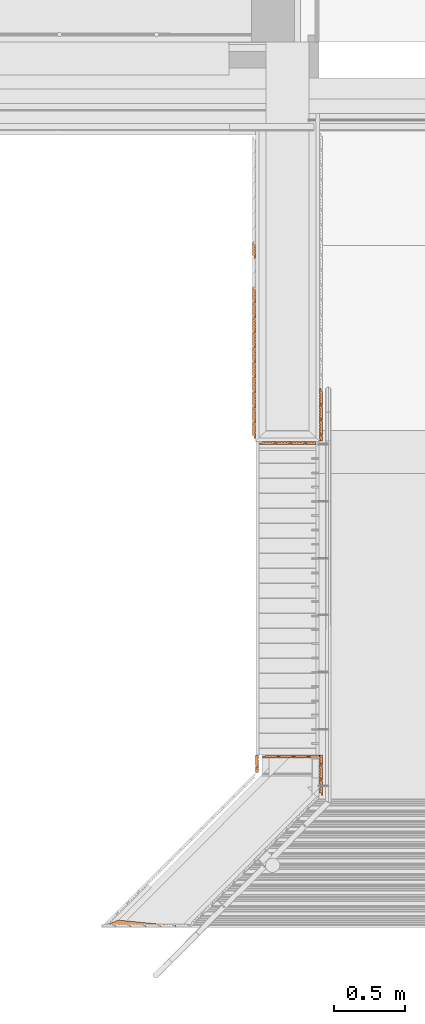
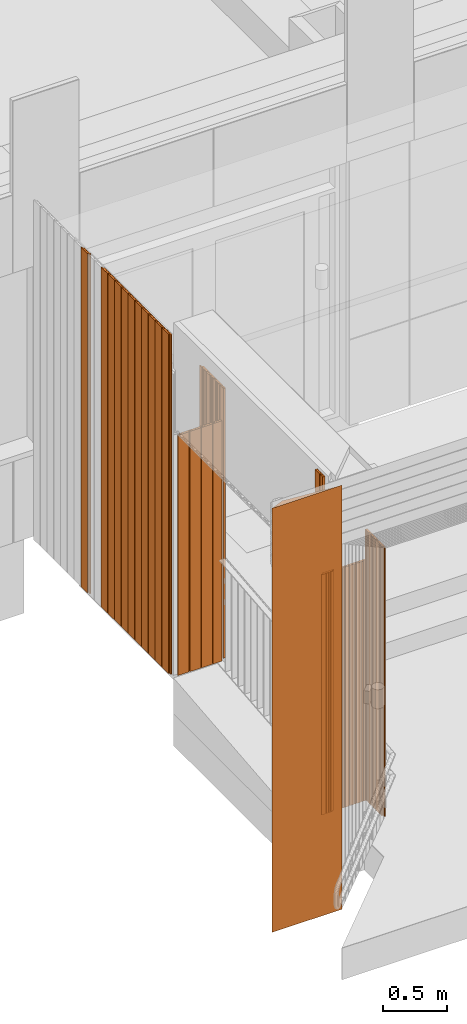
# One storey, part 345 of 418: 29 proxies.
"""IFC2X3 building model written with IfcOpenShell, lengths in millimetres."""

from ifc_helpers import new_model, entity, si_unit, converted_unit, derived_unit, money_unit, direction, frame, origin_with_axes, place, context, subcontext, project, spatial, polyline, outline, extrude, material, type_object, element, save


model = new_model("IFC2X3")

# Units and contexts
model_context = context("Model", 3, precision=0.01, world=origin_with_axes(), true_north=direction((0.0, 1.0)))
body_context = subcontext(model_context, "Body", "Model", "MODEL_VIEW")
ifc_project = project(units=[si_unit("LENGTHUNIT", "METRE", prefix="MILLI"), si_unit("AREAUNIT", "SQUARE_METRE"), si_unit("VOLUMEUNIT", "CUBIC_METRE"), converted_unit("PLANEANGLEUNIT", "DEGREE", entity("IfcPlaneAngleMeasure", 0.0174532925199), si_unit("PLANEANGLEUNIT", "RADIAN"), dimensions=[0, 0, 0, 0, 0, 0, 0]), si_unit("SOLIDANGLEUNIT", "STERADIAN"), money_unit("EUR"), converted_unit("TIMEUNIT", "Year", entity("IfcTimeMeasure", 31556926.0), si_unit("TIMEUNIT", "SECOND"), dimensions=[0, 0, 1, 0, 0, 0, 0]), si_unit("MASSUNIT", "GRAM", prefix="KILO"), si_unit("THERMODYNAMICTEMPERATUREUNIT", "DEGREE_CELSIUS"), si_unit("LUMINOUSINTENSITYUNIT", "LUMEN"), si_unit("ENERGYUNIT", "JOULE", prefix="MEGA"), derived_unit("THERMALCONDUCTANCEUNIT", [(si_unit("POWERUNIT", "WATT"), 1), (si_unit("LENGTHUNIT", "METRE"), -1), (si_unit("THERMODYNAMICTEMPERATUREUNIT", "KELVIN"), -1)]), derived_unit("SPECIFICHEATCAPACITYUNIT", [(si_unit("ENERGYUNIT", "JOULE"), 1), (si_unit("MASSUNIT", "GRAM", prefix="KILO"), -1), (si_unit("THERMODYNAMICTEMPERATUREUNIT", "KELVIN"), -1)]), derived_unit("MASSDENSITYUNIT", [(si_unit("MASSUNIT", "GRAM", prefix="KILO"), 1), (si_unit("VOLUMEUNIT", "CUBIC_METRE"), -1)])], contexts=[model_context])

# Site, building, storey
site_placement = place(None, origin_with_axes())
site = spatial("IfcSite", under=ifc_project, at=site_placement, Name="Paldiski mnt 245/1, Tallinn, Harjumaa", CompositionType="COMPLEX")
building_placement = place(site_placement, origin_with_axes())
building = spatial("IfcBuilding", under=site, at=building_placement, Name="RKAS Hoone üldnimetus (kasutust iseloomustav) -> IFC Project Manager -> SOLIBRI", CompositionType="ELEMENT")
storey_placement = place(building_placement, origin_with_axes())
storey = spatial("IfcBuildingStorey", under=building, at=storey_placement, Name="Esimene korrus", CompositionType="ELEMENT", Elevation=0.0)

# Proxies
ifc_material_1 = material(Name="ET-01_Puit - Konstruktsioon")
building_element_proxy_type_1 = type_object("IfcBuildingElementProxyType", Name="ET-01_Puit - Konstruktsioon 3222", PredefinedType="NOTDEFINED")
proxy_1_placement = place(storey_placement, frame((-44575.4999993, -14550.2632272, 3221.56061477), z_axis=(0.0, 0.0, 1.0), x_axis=(1.0, 0.0, 0.0)))
element("IfcBuildingElementProxy", 1, at=proxy_1_placement, inside=storey, type_object=building_element_proxy_type_1, material=ifc_material_1, Name="Varikatus", context=body_context, shape_type="SweptSolid", body=[
    extrude(outline(polyline([(0.0, 0.0), (10.4999992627, 3.55861118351e-07), (10.5000002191, 37.5260948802), (3.49999970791, 37.5260958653), (3.49999940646, 43.8885929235), (10.499998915, 43.8885931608), (10.4999987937, 58.8277103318), (3.49999928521, 58.8277100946), (3.49999971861, 64.9546507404), (10.4999992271, 64.9546509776), (10.5000001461, 79.7831433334), (3.49999963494, 79.7831443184), (3.50000027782, 85.4238127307), (10.4999997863, 85.423812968), (10.4999994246, 100.000000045), (-0.500000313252, 100.000001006), (-0.500001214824, 120.000000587), (-10.5000010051, 120.000000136), (-10.500001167, 20.0000004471), (3.20767412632e-07, 20.0000005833), (0.0, 0.0)])), frame((0.0, 0.0, -3221.56061477), z_axis=(0.0, 0.0, 1.0), x_axis=(1.0, 0.0, 0.0)), (0.0, 0.0, 1.0), 3221.56061477),
])
proxy_2_placement = place(storey_placement, frame((-44575.4999993, -14655.2632272, 3221.56061477), z_axis=(0.0, 0.0, 1.0), x_axis=(1.0, 0.0, 0.0)))
element("IfcBuildingElementProxy", 2, at=proxy_2_placement, inside=storey, type_object=building_element_proxy_type_1, material=ifc_material_1, Name="Varikatus", context=body_context, shape_type="SweptSolid", body=[
    extrude(outline(polyline([(0.0, 0.0), (10.4999992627, 3.55861118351e-07), (10.5000002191, 37.5260948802), (3.4999997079, 37.5260958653), (3.49999940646, 43.8885929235), (10.4999989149, 43.8885931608), (10.4999987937, 58.8277103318), (3.4999992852, 58.8277100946), (3.49999971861, 64.9546507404), (10.4999992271, 64.9546509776), (10.5000001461, 79.7831433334), (3.49999963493, 79.7831443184), (3.50000027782, 85.4238127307), (10.4999997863, 85.423812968), (10.4999994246, 100.000000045), (-0.500000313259, 100.000001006), (-0.500001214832, 120.000000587), (-10.5000010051, 120.000000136), (-10.500001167, 20.0000004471), (3.20760307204e-07, 20.0000005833), (0.0, 0.0)])), frame((0.0, 0.0, -3221.56061477), z_axis=(0.0, 0.0, 1.0), x_axis=(1.0, 0.0, 0.0)), (0.0, 0.0, 1.0), 3221.56061477),
])
proxy_3_placement = place(storey_placement, frame((-44575.4999993, -14340.2632272, 3221.56061477), z_axis=(0.0, 0.0, 1.0), x_axis=(1.0, 0.0, 0.0)))
element("IfcBuildingElementProxy", 3, at=proxy_3_placement, inside=storey, type_object=building_element_proxy_type_1, material=ifc_material_1, Name="Varikatus", context=body_context, shape_type="SweptSolid", body=[
    extrude(outline(polyline([(0.0, 0.0), (10.4999992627, 3.55868223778e-07), (10.5000002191, 37.5260948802), (3.49999970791, 37.5260958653), (3.49999940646, 43.8885929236), (10.499998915, 43.8885931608), (10.4999987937, 58.8277103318), (3.49999928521, 58.8277100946), (3.49999971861, 64.9546507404), (10.4999992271, 64.9546509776), (10.5000001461, 79.7831433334), (3.49999963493, 79.7831443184), (3.50000027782, 85.4238127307), (10.4999997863, 85.423812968), (10.4999994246, 100.000000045), (-0.500000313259, 100.000001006), (-0.500001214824, 120.000000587), (-10.5000010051, 120.000000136), (-10.500001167, 20.0000004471), (3.20760307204e-07, 20.0000005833), (0.0, 0.0)])), frame((0.0, 0.0, -3221.56061477), z_axis=(0.0, 0.0, 1.0), x_axis=(1.0, 0.0, 0.0)), (0.0, 0.0, 1.0), 3221.56061477),
])
proxy_4_placement = place(storey_placement, frame((-44575.4999993, -14445.2632272, 3221.56061477), z_axis=(0.0, 0.0, 1.0), x_axis=(1.0, 0.0, 0.0)))
element("IfcBuildingElementProxy", 4, at=proxy_4_placement, inside=storey, type_object=building_element_proxy_type_1, material=ifc_material_1, Name="Varikatus", context=body_context, shape_type="SweptSolid", body=[
    extrude(outline(polyline([(0.0, 0.0), (10.4999992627, 3.55868223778e-07), (10.5000002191, 37.5260948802), (3.49999970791, 37.5260958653), (3.49999940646, 43.8885929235), (10.499998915, 43.8885931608), (10.4999987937, 58.8277103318), (3.49999928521, 58.8277100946), (3.49999971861, 64.9546507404), (10.4999992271, 64.9546509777), (10.5000001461, 79.7831433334), (3.49999963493, 79.7831443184), (3.50000027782, 85.4238127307), (10.4999997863, 85.423812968), (10.4999994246, 100.000000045), (-0.500000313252, 100.000001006), (-0.500001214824, 120.000000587), (-10.5000010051, 120.000000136), (-10.500001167, 20.0000004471), (3.20760307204e-07, 20.0000005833), (0.0, 0.0)])), frame((0.0, 0.0, -3221.56061477), z_axis=(0.0, 0.0, 1.0), x_axis=(1.0, 0.0, 0.0)), (0.0, 0.0, 1.0), 3221.56061477),
])
proxy_5_placement = place(storey_placement, frame((-44575.4999993, -15285.2632272, 3221.56061477), z_axis=(0.0, 0.0, 1.0), x_axis=(1.0, 0.0, 0.0)))
element("IfcBuildingElementProxy", 5, at=proxy_5_placement, inside=storey, type_object=building_element_proxy_type_1, material=ifc_material_1, Name="Varikatus", context=body_context, shape_type="SweptSolid", body=[
    extrude(outline(polyline([(0.0, 0.0), (10.4999992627, 3.55861118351e-07), (10.5000002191, 37.5260948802), (3.4999997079, 37.5260958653), (3.49999940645, 43.8885929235), (10.4999989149, 43.8885931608), (10.4999987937, 58.8277103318), (3.4999992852, 58.8277100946), (3.49999971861, 64.9546507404), (10.4999992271, 64.9546509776), (10.5000001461, 79.7831433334), (3.49999963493, 79.7831443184), (3.50000027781, 85.4238127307), (10.4999997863, 85.423812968), (10.4999994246, 100.000000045), (-0.500000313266, 100.000001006), (-0.500001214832, 120.000000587), (-10.5000010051, 120.000000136), (-10.500001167, 20.0000004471), (3.20753201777e-07, 20.0000005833), (0.0, 0.0)])), frame((0.0, 0.0, -3221.56061477), z_axis=(0.0, 0.0, 1.0), x_axis=(1.0, 0.0, 0.0)), (0.0, 0.0, 1.0), 3221.56061477),
])
proxy_6_placement = place(storey_placement, frame((-44575.4999993, -15180.2632272, 3221.56061477), z_axis=(0.0, 0.0, 1.0), x_axis=(1.0, 0.0, 0.0)))
element("IfcBuildingElementProxy", 6, at=proxy_6_placement, inside=storey, type_object=building_element_proxy_type_1, material=ifc_material_1, Name="Varikatus", context=body_context, shape_type="SweptSolid", body=[
    extrude(outline(polyline([(0.0, 0.0), (10.4999992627, 3.55864671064e-07), (10.5000002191, 37.5260948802), (3.4999997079, 37.5260958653), (3.49999940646, 43.8885929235), (10.499998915, 43.8885931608), (10.4999987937, 58.8277103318), (3.49999928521, 58.8277100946), (3.49999971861, 64.9546507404), (10.4999992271, 64.9546509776), (10.5000001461, 79.7831433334), (3.49999963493, 79.7831443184), (3.50000027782, 85.4238127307), (10.4999997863, 85.423812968), (10.4999994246, 100.000000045), (-0.500000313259, 100.000001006), (-0.500001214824, 120.000000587), (-10.5000010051, 120.000000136), (-10.500001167, 20.0000004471), (3.20760307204e-07, 20.0000005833), (0.0, 0.0)])), frame((0.0, 0.0, -3221.56061477), z_axis=(0.0, 0.0, 1.0), x_axis=(1.0, 0.0, 0.0)), (0.0, 0.0, 1.0), 3221.56061477),
])
proxy_7_placement = place(storey_placement, frame((-44575.4999993, -15075.2632272, 3221.56061477), z_axis=(0.0, 0.0, 1.0), x_axis=(1.0, 0.0, 0.0)))
element("IfcBuildingElementProxy", 7, at=proxy_7_placement, inside=storey, type_object=building_element_proxy_type_1, material=ifc_material_1, Name="Varikatus", context=body_context, shape_type="SweptSolid", body=[
    extrude(outline(polyline([(0.0, 0.0), (10.4999992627, 3.55868223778e-07), (10.5000002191, 37.5260948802), (3.49999970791, 37.5260958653), (3.49999940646, 43.8885929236), (10.499998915, 43.8885931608), (10.4999987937, 58.8277103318), (3.49999928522, 58.8277100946), (3.49999971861, 64.9546507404), (10.4999992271, 64.9546509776), (10.5000001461, 79.7831433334), (3.49999963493, 79.7831443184), (3.50000027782, 85.4238127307), (10.4999997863, 85.423812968), (10.4999994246, 100.000000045), (-0.500000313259, 100.000001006), (-0.500001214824, 120.000000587), (-10.5000010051, 120.000000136), (-10.500001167, 20.0000004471), (3.20767412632e-07, 20.0000005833), (0.0, 0.0)])), frame((0.0, 0.0, -3221.56061477), z_axis=(0.0, 0.0, 1.0), x_axis=(1.0, 0.0, 0.0)), (0.0, 0.0, 1.0), 3221.56061477),
])
proxy_8_placement = place(storey_placement, frame((-44575.4999993, -14970.2632272, 3221.56061477), z_axis=(0.0, 0.0, 1.0), x_axis=(1.0, 0.0, 0.0)))
element("IfcBuildingElementProxy", 8, at=proxy_8_placement, inside=storey, type_object=building_element_proxy_type_1, material=ifc_material_1, Name="Varikatus", context=body_context, shape_type="SweptSolid", body=[
    extrude(outline(polyline([(0.0, 0.0), (10.4999992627, 3.55868223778e-07), (10.5000002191, 37.5260948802), (3.4999997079, 37.5260958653), (3.49999940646, 43.8885929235), (10.4999989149, 43.8885931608), (10.4999987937, 58.8277103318), (3.4999992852, 58.8277100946), (3.49999971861, 64.9546507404), (10.4999992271, 64.9546509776), (10.5000001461, 79.7831433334), (3.49999963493, 79.7831443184), (3.50000027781, 85.4238127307), (10.4999997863, 85.423812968), (10.4999994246, 100.000000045), (-0.500000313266, 100.000001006), (-0.500001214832, 120.000000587), (-10.5000010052, 120.000000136), (-10.500001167, 20.0000004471), (3.20753201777e-07, 20.0000005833), (0.0, 0.0)])), frame((0.0, 0.0, -3221.56061477), z_axis=(0.0, 0.0, 1.0), x_axis=(1.0, 0.0, 0.0)), (0.0, 0.0, 1.0), 3221.56061477),
])
proxy_9_placement = place(storey_placement, frame((-44575.4999993, -14865.2632272, 3221.56061477), z_axis=(0.0, 0.0, 1.0), x_axis=(1.0, 0.0, 0.0)))
element("IfcBuildingElementProxy", 9, at=proxy_9_placement, inside=storey, type_object=building_element_proxy_type_1, material=ifc_material_1, Name="Varikatus", context=body_context, shape_type="SweptSolid", body=[
    extrude(outline(polyline([(0.0, 0.0), (10.4999992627, 3.55868223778e-07), (10.5000002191, 37.5260948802), (3.49999970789, 37.5260958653), (3.49999940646, 43.8885929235), (10.4999989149, 43.8885931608), (10.4999987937, 58.8277103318), (3.49999928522, 58.8277100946), (3.49999971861, 64.9546507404), (10.4999992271, 64.9546509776), (10.5000001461, 79.7831433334), (3.49999963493, 79.7831443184), (3.50000027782, 85.4238127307), (10.4999997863, 85.423812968), (10.4999994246, 100.000000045), (-0.500000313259, 100.000001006), (-0.500001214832, 120.000000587), (-10.5000010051, 120.000000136), (-10.500001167, 20.0000004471), (3.20760307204e-07, 20.0000005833), (0.0, 0.0)])), frame((0.0, 0.0, -3221.56061477), z_axis=(0.0, 0.0, 1.0), x_axis=(1.0, 0.0, 0.0)), (0.0, 0.0, 1.0), 3221.56061477),
])
proxy_10_placement = place(storey_placement, frame((-44575.4999993, -14760.2632272, 3221.56061477), z_axis=(0.0, 0.0, 1.0), x_axis=(1.0, 0.0, 0.0)))
element("IfcBuildingElementProxy", 10, at=proxy_10_placement, inside=storey, type_object=building_element_proxy_type_1, material=ifc_material_1, Name="Varikatus", context=body_context, shape_type="SweptSolid", body=[
    extrude(outline(polyline([(0.0, 0.0), (10.4999992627, 3.55861118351e-07), (10.5000002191, 37.5260948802), (3.4999997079, 37.5260958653), (3.49999940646, 43.8885929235), (10.4999989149, 43.8885931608), (10.4999987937, 58.8277103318), (3.49999928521, 58.8277100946), (3.49999971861, 64.9546507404), (10.4999992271, 64.9546509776), (10.5000001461, 79.7831433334), (3.49999963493, 79.7831443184), (3.50000027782, 85.4238127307), (10.4999997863, 85.423812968), (10.4999994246, 100.000000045), (-0.500000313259, 100.000001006), (-0.500001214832, 120.000000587), (-10.5000010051, 120.000000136), (-10.500001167, 20.0000004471), (3.20753201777e-07, 20.0000005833), (0.0, 0.0)])), frame((0.0, 0.0, -3221.56061477), z_axis=(0.0, 0.0, 1.0), x_axis=(1.0, 0.0, 0.0)), (0.0, 0.0, 1.0), 3221.56061477),
])
proxy_11_placement = place(storey_placement, frame((-44575.4999993, -14025.2632272, 3221.56061477), z_axis=(0.0, 0.0, 1.0), x_axis=(1.0, 0.0, 0.0)))
element("IfcBuildingElementProxy", 11, at=proxy_11_placement, inside=storey, type_object=building_element_proxy_type_1, material=ifc_material_1, Name="Varikatus", context=body_context, shape_type="SweptSolid", body=[
    extrude(outline(polyline([(0.0, 0.0), (10.4999992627, 3.55871776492e-07), (10.5000002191, 37.5260948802), (3.4999997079, 37.5260958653), (3.49999940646, 43.8885929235), (10.499998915, 43.8885931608), (10.4999987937, 58.8277103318), (3.4999992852, 58.8277100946), (3.49999971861, 64.9546507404), (10.4999992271, 64.9546509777), (10.5000001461, 79.7831433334), (3.49999963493, 79.7831443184), (3.50000027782, 85.4238127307), (10.4999997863, 85.423812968), (10.4999994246, 100.000000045), (-0.500000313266, 100.000001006), (-0.500001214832, 120.000000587), (-10.5000010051, 120.000000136), (-10.500001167, 20.0000004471), (3.20767412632e-07, 20.0000005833), (0.0, 0.0)])), frame((0.0, 0.0, -3221.56061477), z_axis=(0.0, 0.0, 1.0), x_axis=(1.0, 0.0, 0.0)), (0.0, 0.0, 1.0), 3221.56061477),
])
ifc_material_2 = material(Name="SKR-01_Õhkvahe - Raam")
building_element_proxy_type_2 = type_object("IfcBuildingElementProxyType", Name="Varikatuse_sein ots 50", PredefinedType="NOTDEFINED")
proxy_12_placement = place(storey_placement, frame((-45642.602192, -18705.5141429, 0.0), z_axis=(0.0, 0.0, 1.0), x_axis=(1.0, 0.0, 0.0)))
element("IfcBuildingElementProxy", 12, at=proxy_12_placement, inside=storey, type_object=building_element_proxy_type_2, material=ifc_material_2, Name="Varikatus", context=body_context, shape_type="SweptSolid", body=[
    extrude(outline(polyline([(0.0, 0.0), (626.111525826, 0.0), (111.027207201, 50.0), (120.992338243, 50.0), (0.0, 0.0)])), origin_with_axes(), (0.0, 0.0, 1.0), 4023.60475805),
])
building_element_proxy_type_3 = type_object("IfcBuildingElementProxyType", Name="ET-01_Puit - Konstruktsioon 2280", PredefinedType="NOTDEFINED")
proxy_13_placement = place(storey_placement, frame((-44415.0000003, -15316.5843004, 2280.0), z_axis=(0.0, 0.0, 1.0), x_axis=(1.0, 0.0, 0.0)))
element("IfcBuildingElementProxy", 13, at=proxy_13_placement, inside=storey, type_object=building_element_proxy_type_3, material=ifc_material_1, Name="Varikatus", context=body_context, shape_type="SweptSolid", body=[
    extrude(outline(polyline([(0.0, 0.0), (-3.55861118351e-07, 10.4999992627), (-37.5260948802, 10.5000002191), (-37.5260958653, 3.49999970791), (-43.8885929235, 3.49999940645), (-43.8885931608, 10.499998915), (-58.8277103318, 10.4999987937), (-58.8277100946, 3.49999928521), (-64.9546507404, 3.49999971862), (-64.9546509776, 10.4999992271), (-79.7831433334, 10.5000001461), (-79.7831443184, 3.49999963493), (-85.4238127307, 3.50000027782), (-85.423812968, 10.4999997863), (-100.000000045, 10.4999994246), (-100.000001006, -0.500000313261), (-120.000000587, -0.500001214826), (-120.000000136, -10.5000010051), (-20.0000004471, -10.500001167), (-20.0000005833, 3.20753201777e-07), (0.0, 0.0)])), frame((0.0, 0.0, -2280.0), z_axis=(0.0, 0.0, 1.0), x_axis=(1.0, 0.0, 0.0)), (0.0, 0.0, 1.0), 2280.0),
])
proxy_14_placement = place(storey_placement, frame((-44310.0000003, -15316.5843004, 2280.0), z_axis=(0.0, 0.0, 1.0), x_axis=(1.0, 0.0, 0.0)))
element("IfcBuildingElementProxy", 14, at=proxy_14_placement, inside=storey, type_object=building_element_proxy_type_3, material=ifc_material_1, Name="Varikatus", context=body_context, shape_type="SweptSolid", body=[
    extrude(outline(polyline([(0.0, 0.0), (-3.55868223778e-07, 10.4999992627), (-37.5260948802, 10.5000002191), (-37.5260958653, 3.4999997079), (-43.8885929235, 3.49999940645), (-43.8885931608, 10.499998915), (-58.8277103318, 10.4999987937), (-58.8277100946, 3.49999928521), (-64.9546507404, 3.49999971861), (-64.9546509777, 10.4999992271), (-79.7831433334, 10.5000001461), (-79.7831443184, 3.49999963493), (-85.4238127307, 3.50000027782), (-85.423812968, 10.4999997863), (-100.000000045, 10.4999994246), (-100.000001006, -0.500000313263), (-120.000000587, -0.500001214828), (-120.000000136, -10.5000010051), (-20.0000004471, -10.500001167), (-20.0000005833, 3.20753201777e-07), (0.0, 0.0)])), frame((0.0, 0.0, -2280.0), z_axis=(0.0, 0.0, 1.0), x_axis=(1.0, 0.0, 0.0)), (0.0, 0.0, 1.0), 2280.0),
])
proxy_15_placement = place(storey_placement, frame((-44205.0000003, -15316.5843004, 2280.0), z_axis=(0.0, 0.0, 1.0), x_axis=(1.0, 0.0, 0.0)))
element("IfcBuildingElementProxy", 15, at=proxy_15_placement, inside=storey, type_object=building_element_proxy_type_3, material=ifc_material_1, Name="Varikatus", context=body_context, shape_type="SweptSolid", body=[
    extrude(outline(polyline([(0.0, 0.0), (-3.55875329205e-07, 10.4999992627), (-37.5260948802, 10.5000002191), (-37.5260958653, 3.49999970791), (-43.8885929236, 3.49999940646), (-43.8885931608, 10.499998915), (-58.8277103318, 10.4999987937), (-58.8277100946, 3.49999928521), (-64.9546507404, 3.49999971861), (-64.9546509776, 10.4999992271), (-79.7831433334, 10.5000001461), (-79.7831443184, 3.49999963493), (-85.4238127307, 3.50000027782), (-85.423812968, 10.4999997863), (-100.000000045, 10.4999994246), (-100.000001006, -0.500000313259), (-120.000000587, -0.500001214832), (-120.000000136, -10.5000010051), (-20.0000004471, -10.500001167), (-20.0000005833, 3.20756754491e-07), (0.0, 0.0)])), frame((0.0, 0.0, -2280.0), z_axis=(0.0, 0.0, 1.0), x_axis=(1.0, 0.0, 0.0)), (0.0, 0.0, 1.0), 2280.0),
])
proxy_16_placement = place(storey_placement, frame((-44219.9999998, -15327.0843021, 2280.0), z_axis=(0.0, 0.0, 1.0), x_axis=(1.0, 0.0, 0.0)))
element("IfcBuildingElementProxy", 16, at=proxy_16_placement, inside=storey, type_object=building_element_proxy_type_3, material=ifc_material_1, Name="Varikatus", context=body_context, shape_type="SweptSolid", body=[
    extrude(outline(polyline([(0.0, 0.0), (80.9999999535, 8.10446820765e-07), (80.9999998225, 14.0000017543), (76.1114066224, 14.0000008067), (76.1114062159, 21.0000016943), (61.1722883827, 21.0000000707), (61.1722889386, 14.0000006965), (55.0453487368, 14.0000010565), (55.0453481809, 21.0000004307), (40.2168565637, 21.0000024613), (40.2168554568, 14.0000017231), (34.5761868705, 14.0000018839), (34.5761863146, 21.0000012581), (19.9999995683, 21.0000015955), (19.9999984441, 10.0000011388), (-9.79724745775e-07, 10.0000005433), (0.0, 0.0)])), frame((0.0, 0.0, -2280.0), z_axis=(0.0, 0.0, 1.0), x_axis=(1.0, 0.0, 0.0)), (0.0, 0.0, 1.0), 2280.0),
])
proxy_17_placement = place(storey_placement, frame((-44304.9999996, -17512.4093649, 2280.0), z_axis=(0.0, 0.0, 1.0), x_axis=(1.0, 0.0, 0.0)))
element("IfcBuildingElementProxy", 17, at=proxy_17_placement, inside=storey, type_object=building_element_proxy_type_3, material=ifc_material_1, Name="Varikatus", context=body_context, shape_type="SweptSolid", body=[
    extrude(outline(polyline([(0.0, 0.0), (3.55868223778e-07, -10.4999992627), (37.5260948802, -10.5000002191), (37.5260958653, -3.49999970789), (43.8885929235, -3.49999940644), (43.8885931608, -10.4999989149), (58.8277103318, -10.4999987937), (58.8277100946, -3.49999928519), (64.9546507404, -3.49999971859), (64.9546509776, -10.4999992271), (79.7831433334, -10.5000001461), (79.7831443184, -3.49999963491), (85.4238127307, -3.50000027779), (85.423812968, -10.4999997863), (100.000000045, -10.4999994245), (100.000001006, 0.500000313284), (120.000000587, 0.500001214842), (120.000000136, 10.5000010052), (20.0000004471, 10.500001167), (20.0000005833, -3.20735438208e-07), (0.0, 0.0)])), frame((0.0, 0.0, -2280.0), z_axis=(0.0, 0.0, 1.0), x_axis=(1.0, 0.0, 0.0)), (0.0, 0.0, 1.0), 2280.0),
])
proxy_18_placement = place(storey_placement, frame((-44409.9999996, -17512.4093649, 2280.0), z_axis=(0.0, 0.0, 1.0), x_axis=(1.0, 0.0, 0.0)))
element("IfcBuildingElementProxy", 18, at=proxy_18_placement, inside=storey, type_object=building_element_proxy_type_3, material=ifc_material_1, Name="Varikatus", context=body_context, shape_type="SweptSolid", body=[
    extrude(outline(polyline([(0.0, 0.0), (3.55861118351e-07, -10.4999992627), (37.5260948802, -10.5000002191), (37.5260958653, -3.4999997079), (43.8885929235, -3.49999940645), (43.8885931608, -10.4999989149), (58.8277103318, -10.4999987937), (58.8277100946, -3.4999992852), (64.9546507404, -3.49999971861), (64.9546509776, -10.4999992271), (79.7831433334, -10.5000001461), (79.7831443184, -3.49999963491), (85.4238127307, -3.50000027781), (85.423812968, -10.4999997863), (100.000000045, -10.4999994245), (100.000001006, 0.500000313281), (120.000000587, 0.500001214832), (120.000000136, 10.5000010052), (20.0000004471, 10.500001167), (20.0000005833, -3.20753201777e-07), (0.0, 0.0)])), frame((0.0, 0.0, -2280.0), z_axis=(0.0, 0.0, 1.0), x_axis=(1.0, 0.0, 0.0)), (0.0, 0.0, 1.0), 2280.0),
])
proxy_19_placement = place(storey_placement, frame((-44514.9999996, -17512.4093649, 2280.0), z_axis=(0.0, 0.0, 1.0), x_axis=(1.0, 0.0, 0.0)))
element("IfcBuildingElementProxy", 19, at=proxy_19_placement, inside=storey, type_object=building_element_proxy_type_3, material=ifc_material_1, Name="Varikatus", context=body_context, shape_type="SweptSolid", body=[
    extrude(outline(polyline([(0.0, 0.0), (3.55861118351e-07, -10.4999992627), (37.5260948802, -10.5000002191), (37.5260958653, -3.49999970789), (43.8885929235, -3.49999940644), (43.8885931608, -10.4999989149), (58.8277103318, -10.4999987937), (58.8277100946, -3.4999992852), (64.9546507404, -3.4999997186), (64.9546509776, -10.4999992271), (79.7831433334, -10.5000001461), (79.7831443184, -3.49999963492), (85.4238127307, -3.5000002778), (85.423812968, -10.4999997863), (100.000000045, -10.4999994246), (100.000001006, 0.500000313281), (120.000000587, 0.500001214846), (120.000000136, 10.5000010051), (20.0000004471, 10.500001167), (20.0000005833, -3.20753201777e-07), (0.0, 0.0)])), frame((0.0, 0.0, -2280.0), z_axis=(0.0, 0.0, 1.0), x_axis=(1.0, 0.0, 0.0)), (0.0, 0.0, 1.0), 2280.0),
])
proxy_20_placement = place(storey_placement, frame((-44199.9999996, -17522.9093638, 2280.0), z_axis=(0.0, 0.0, 1.0), x_axis=(1.0, 0.0, 0.0)))
element("IfcBuildingElementProxy", 20, at=proxy_20_placement, inside=storey, type_object=building_element_proxy_type_3, material=ifc_material_1, Name="Varikatus", context=body_context, shape_type="SweptSolid", body=[
    extrude(outline(polyline([(0.0, 0.0), (37.526094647, -1.74002678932e-06), (37.5260959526, 6.99999911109), (43.8885928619, 7.00000009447), (43.8885924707, -6.59383658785e-09), (58.8277106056, -2.26215490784e-07), (58.8277100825, 6.99999912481), (64.9546509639, 6.99999889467), (64.954651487, -4.56353177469e-07), (79.7831438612, -1.02994945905e-06), (79.7831442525, 6.99999907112), (85.4238125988, 6.99999889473), (85.4238126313, 21.0000000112), (20.0000004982, 21.0000003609), (20.0000010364, 10.4999988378), (4.75921524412e-08, 10.4999989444), (0.0, 0.0)])), frame((0.0, 0.0, -2280.0), z_axis=(0.0, 0.0, 1.0), x_axis=(1.0, 0.0, 0.0)), (0.0, 0.0, 1.0), 2280.0),
])
building_element_proxy_type_4 = type_object("IfcBuildingElementProxyType", Name="ET-01_Puit - Konstruktsioon 2560", PredefinedType="NOTDEFINED")
proxy_21_placement = place(storey_placement, frame((-44104.5000006, -14935.2632266, 2560.10177239), z_axis=(0.0, 0.0, 1.0), x_axis=(1.0, 0.0, 0.0)))
element("IfcBuildingElementProxy", 21, at=proxy_21_placement, inside=storey, type_object=building_element_proxy_type_4, material=ifc_material_1, Name="Varikatus", context=body_context, shape_type="SweptSolid", body=[
    extrude(outline(polyline([(0.0, 0.0), (-10.4999992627, -3.55864671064e-07), (-10.5000002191, -37.5260948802), (-3.49999970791, -37.5260958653), (-3.49999940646, -43.8885929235), (-10.4999989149, -43.8885931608), (-10.4999987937, -58.8277103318), (-3.49999928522, -58.8277100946), (-3.49999971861, -64.9546507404), (-10.4999992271, -64.9546509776), (-10.5000001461, -79.7831433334), (-3.49999963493, -79.7831443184), (-3.50000027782, -85.4238127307), (-10.4999997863, -85.423812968), (-10.4999994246, -100.000000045), (0.500000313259, -100.000001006), (0.500001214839, -120.000000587), (10.5000010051, -120.000000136), (10.500001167, -20.0000004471), (-3.20753201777e-07, -20.0000005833), (0.0, 0.0)])), frame((0.0, 0.0, -2560.10177239), z_axis=(0.0, 0.0, 1.0), x_axis=(1.0, 0.0, 0.0)), (0.0, 0.0, 1.0), 2560.10177239),
])
proxy_22_placement = place(storey_placement, frame((-44104.5000006, -15040.2632266, 2560.10177239), z_axis=(0.0, 0.0, 1.0), x_axis=(1.0, 0.0, 0.0)))
element("IfcBuildingElementProxy", 22, at=proxy_22_placement, inside=storey, type_object=building_element_proxy_type_4, material=ifc_material_1, Name="Varikatus", context=body_context, shape_type="SweptSolid", body=[
    extrude(outline(polyline([(0.0, 0.0), (-10.4999992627, -3.55868223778e-07), (-10.5000002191, -37.5260948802), (-3.4999997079, -37.5260958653), (-3.49999940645, -43.8885929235), (-10.499998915, -43.8885931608), (-10.4999987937, -58.8277103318), (-3.4999992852, -58.8277100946), (-3.49999971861, -64.9546507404), (-10.4999992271, -64.9546509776), (-10.5000001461, -79.7831433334), (-3.49999963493, -79.7831443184), (-3.50000027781, -85.4238127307), (-10.4999997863, -85.423812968), (-10.4999994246, -100.000000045), (0.500000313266, -100.000001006), (0.500001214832, -120.000000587), (10.5000010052, -120.000000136), (10.500001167, -20.0000004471), (-3.20753201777e-07, -20.0000005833), (0.0, 0.0)])), frame((0.0, 0.0, -2560.10177239), z_axis=(0.0, 0.0, 1.0), x_axis=(1.0, 0.0, 0.0)), (0.0, 0.0, 1.0), 2560.10177239),
])
proxy_23_placement = place(storey_placement, frame((-44104.5000006, -15145.2632266, 2560.10177239), z_axis=(0.0, 0.0, 1.0), x_axis=(1.0, 0.0, 0.0)))
element("IfcBuildingElementProxy", 23, at=proxy_23_placement, inside=storey, type_object=building_element_proxy_type_4, material=ifc_material_1, Name="Varikatus", context=body_context, shape_type="SweptSolid", body=[
    extrude(outline(polyline([(0.0, 0.0), (-10.4999992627, -3.55861118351e-07), (-10.5000002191, -37.5260948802), (-3.4999997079, -37.5260958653), (-3.49999940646, -43.8885929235), (-10.499998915, -43.8885931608), (-10.4999987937, -58.8277103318), (-3.49999928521, -58.8277100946), (-3.49999971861, -64.9546507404), (-10.4999992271, -64.9546509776), (-10.5000001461, -79.7831433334), (-3.49999963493, -79.7831443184), (-3.50000027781, -85.4238127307), (-10.4999997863, -85.423812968), (-10.4999994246, -100.000000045), (0.500000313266, -100.000001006), (0.500001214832, -120.000000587), (10.5000010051, -120.000000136), (10.500001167, -20.0000004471), (-3.20753201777e-07, -20.0000005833), (0.0, 0.0)])), frame((0.0, 0.0, -2560.10177239), z_axis=(0.0, 0.0, 1.0), x_axis=(1.0, 0.0, 0.0)), (0.0, 0.0, 1.0), 2560.10177239),
])
proxy_24_placement = place(storey_placement, frame((-44103.5000009, -17560.2632266, 2560.10177239), z_axis=(0.0, 0.0, 1.0), x_axis=(1.0, 0.0, 0.0)))
element("IfcBuildingElementProxy", 24, at=proxy_24_placement, inside=storey, type_object=building_element_proxy_type_4, material=ifc_material_1, Name="Varikatus", context=body_context, shape_type="SweptSolid", body=[
    extrude(outline(polyline([(0.0, 0.0), (-10.4999992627, -3.55871776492e-07), (-10.5000002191, -37.5260948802), (-3.4999997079, -37.5260958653), (-3.49999940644, -43.8885929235), (-10.4999989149, -43.8885931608), (-10.4999987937, -58.8277103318), (-3.49999928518, -58.8277100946), (-3.49999971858, -64.9546507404), (-10.4999992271, -64.9546509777), (-10.5000001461, -79.7831433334), (-3.49999963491, -79.7831443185), (-3.50000027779, -85.4238127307), (-10.4999997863, -85.423812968), (-10.4999994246, -100.000000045), (0.500000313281, -100.000001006), (0.500001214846, -120.000000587), (10.5000010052, -120.000000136), (10.500001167, -20.0000004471), (-3.20738990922e-07, -20.0000005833), (0.0, 0.0)])), frame((0.0, 0.0, -2560.10177239), z_axis=(0.0, 0.0, 1.0), x_axis=(1.0, 0.0, 0.0)), (0.0, 0.0, 1.0), 2560.10177239),
])
proxy_25_placement = place(storey_placement, frame((-44104.5000006, -15250.2632266, 2560.10177239), z_axis=(0.0, 0.0, 1.0), x_axis=(1.0, 0.0, 0.0)))
element("IfcBuildingElementProxy", 25, at=proxy_25_placement, inside=storey, type_object=building_element_proxy_type_4, material=ifc_material_1, Name="Varikatus", context=body_context, shape_type="SweptSolid", body=[
    extrude(outline(polyline([(0.0, 0.0), (-10.4999992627, -3.55868223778e-07), (-10.5000002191, -37.5260948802), (-3.4999997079, -37.5260958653), (-3.49999940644, -43.8885929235), (-10.4999989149, -43.8885931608), (-10.4999988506, -51.8210747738), (10.5000011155, -51.8210747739), (10.500001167, -20.0000004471), (-3.20753201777e-07, -20.0000005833), (0.0, 0.0)])), frame((0.0, 0.0, -2560.10177239), z_axis=(0.0, 0.0, 1.0), x_axis=(1.0, 0.0, 0.0)), (0.0, 0.0, 1.0), 2560.10177239),
])
proxy_26_placement = place(storey_placement, frame((-44092.9999998, -17501.9093639, 2560.10177239), z_axis=(0.0, 0.0, 1.0), x_axis=(1.0, 0.0, 0.0)))
element("IfcBuildingElementProxy", 26, at=proxy_26_placement, inside=storey, type_object=building_element_proxy_type_4, material=ifc_material_1, Name="Varikatus", context=body_context, shape_type="SweptSolid", body=[
    extrude(outline(polyline([(0.0, 0.0), (-21.0000000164, 0.0), (-20.9999999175, -12.1815730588), (-14.0000004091, -12.1815728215), (-14.0000008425, -18.3085134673), (-21.000000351, -18.3085137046), (-21.00000127, -33.1370060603), (-14.0000007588, -33.1370070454), (-14.0000014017, -38.7776754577), (-21.0000009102, -38.7776756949), (-21.0000005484, -53.3538627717), (-10.0000008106, -53.3538637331), (-9.99999990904, -73.3538633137), (-1.18738796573e-07, -73.3538628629), (0.0, 0.0)])), frame((0.0, 0.0, -2560.10177239), z_axis=(0.0, 0.0, 1.0), x_axis=(1.0, 0.0, 0.0)), (0.0, 0.0, 1.0), 2560.10177239),
])
proxy_27_placement = place(storey_placement, frame((-44103.5000009, -17665.2632266, 2560.10177239), z_axis=(0.0, 0.0, 1.0), x_axis=(1.0, 0.0, 0.0)))
element("IfcBuildingElementProxy", 27, at=proxy_27_placement, inside=storey, type_object=building_element_proxy_type_4, material=ifc_material_1, Name="Varikatus", context=body_context, shape_type="SweptSolid", body=[
    extrude(outline(polyline([(0.0, 0.0), (-10.4999992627, -3.55861118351e-07), (-10.500000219, -37.5260948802), (-3.49999970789, -37.5260958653), (-3.49999940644, -43.8885929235), (-10.4999989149, -43.8885931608), (-10.4999987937, -58.8277103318), (-3.49999928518, -58.8277100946), (-3.49999971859, -64.9546507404), (-10.4999992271, -64.9546509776), (-10.5000001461, -79.7831433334), (-3.4999996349, -79.7831443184), (-3.50000027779, -85.4238127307), (-10.4999997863, -85.423812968), (-10.4999994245, -100.000000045), (0.500000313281, -100.000001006), (0.500001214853, -120.000000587), (10.5000010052, -120.000000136), (10.500001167, -20.0000004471), (-3.20746096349e-07, -20.0000005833), (0.0, 0.0)])), frame((0.0, 0.0, -2560.10177239), z_axis=(0.0, 0.0, 1.0), x_axis=(1.0, 0.0, 0.0)), (0.0, 0.0, 1.0), 2560.10177239),
])
building_element_proxy_type_5 = type_object("IfcBuildingElementProxyType", Name="ET-01_Puit - Konstruktsioon 3285", PredefinedType="NOTDEFINED")
proxy_28_placement = place(storey_placement, frame((-44562.0000003, -17622.6159153, 3285.1017727), z_axis=(0.0, 0.0, 1.0), x_axis=(1.0, 0.0, 0.0)))
element("IfcBuildingElementProxy", 28, at=proxy_28_placement, inside=storey, type_object=building_element_proxy_type_5, material=ifc_material_1, Name="Varikatus", context=body_context, shape_type="SweptSolid", body=[
    extrude(outline(polyline([(0.0, 0.0), (20.9999999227, 1.14816600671e-07), (21.0000017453, 2.13583176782), (14.0000008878, 2.13583280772), (14.0000013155, 7.77650099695), (21.000000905, 7.77650099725), (21.0000007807, 22.3526883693), (10.0000010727, 22.3526894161), (10.0000000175, 42.3526888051), (3.22991411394e-07, 42.3526882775), (0.0, 0.0)])), frame((0.0, 0.0, -3285.1017727), z_axis=(0.0, 0.0, 1.0), x_axis=(1.0, 0.0, 0.0)), (0.0, 0.0, 1.0), 3285.1017727),
])
proxy_29_placement = place(storey_placement, frame((-44551.499999, -17595.2632272, 3285.1017727), z_axis=(0.0, 0.0, 1.0), x_axis=(1.0, 0.0, 0.0)))
element("IfcBuildingElementProxy", 29, at=proxy_29_placement, inside=storey, type_object=building_element_proxy_type_5, material=ifc_material_1, Name="Varikatus", context=body_context, shape_type="SweptSolid", body=[
    extrude(outline(polyline([(0.0, 0.0), (10.4999992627, 3.55861118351e-07), (10.5000002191, 37.5260948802), (3.4999997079, 37.5260958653), (3.49999940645, 43.8885929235), (10.4999989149, 43.8885931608), (10.4999987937, 58.8277103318), (3.49999928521, 58.8277100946), (3.4999997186, 64.9546507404), (10.4999992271, 64.9546509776), (10.5000001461, 79.7831433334), (3.49999963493, 79.7831443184), (3.50000027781, 85.4238127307), (10.4999997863, 85.423812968), (10.4999995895, 93.353870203), (-10.5000010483, 93.353870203), (-10.500001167, 20.0000004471), (3.20753201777e-07, 20.0000005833), (0.0, 0.0)])), frame((0.0, 0.0, -3285.1017727), z_axis=(0.0, 0.0, 1.0), x_axis=(1.0, 0.0, 0.0)), (0.0, 0.0, 1.0), 3285.1017727),
])

save(model, "model.ifc")
